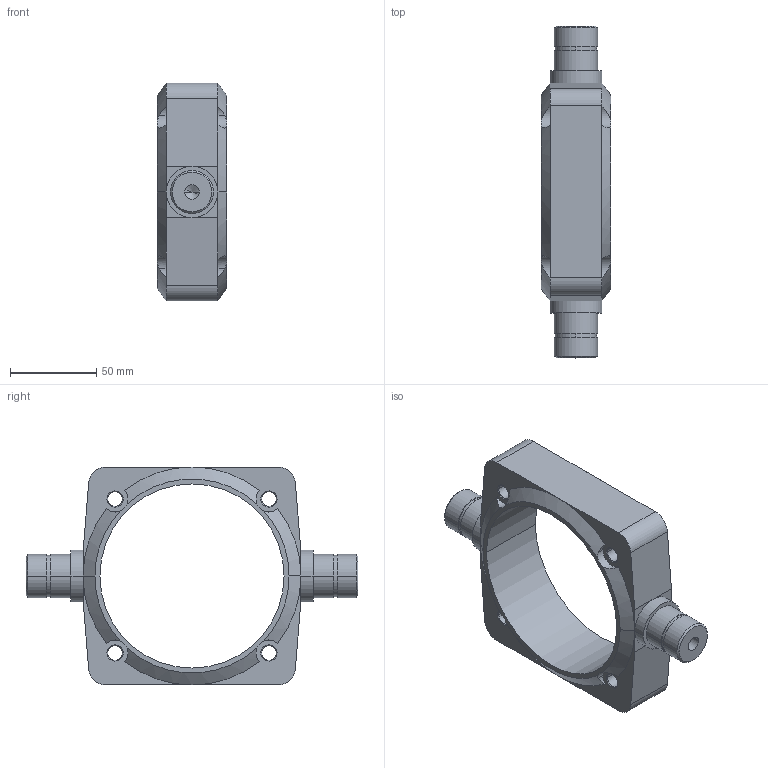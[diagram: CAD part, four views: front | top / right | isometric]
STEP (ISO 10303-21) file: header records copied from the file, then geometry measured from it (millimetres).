
FILE_DESCRIPTION(('CATIA V5 STEP Exchange'),'2;1');
FILE_NAME('C:\Users\Sohrabi\Desktop\PNC-H\H-PNC-100.stp','2018-03-10T07:52:02+00:00',('none'),('none'),'CATIA Version 5-6 Release 2016','CATIA V5 STEP AP203','none');
FILE_SCHEMA(('CONFIG_CONTROL_DESIGN'));
Length unit declared in the file: millimetre
Products named in the file (1): H-PNC-100
Bounding box: 40 x 192 x 126 mm (x, y, z)
Volume: 242815.8 mm3; surface area: 51424.7 mm2
Topology: 1 solids, 1 shells, 124 faces, 310 edges, 190 vertices
Faces by surface type: cylinder 56, cone 36, plane 32
Entity records: 3441 total; most frequent: CARTESIAN_POINT 762, ORIENTED_EDGE 612, DIRECTION 404, EDGE_CURVE 306, AXIS2_PLACEMENT_3D 228, VERTEX_POINT 188, CIRCLE 162, EDGE_LOOP 142
